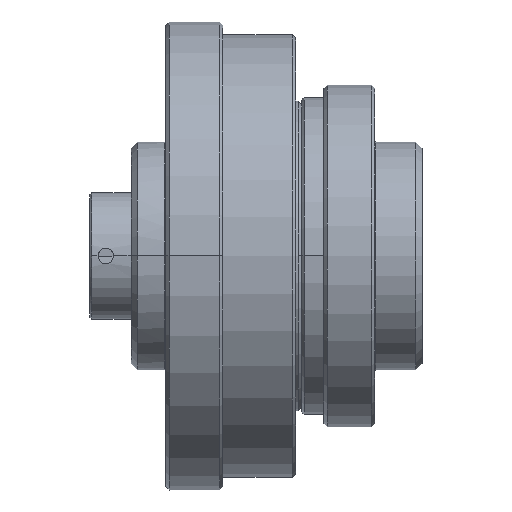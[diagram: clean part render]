
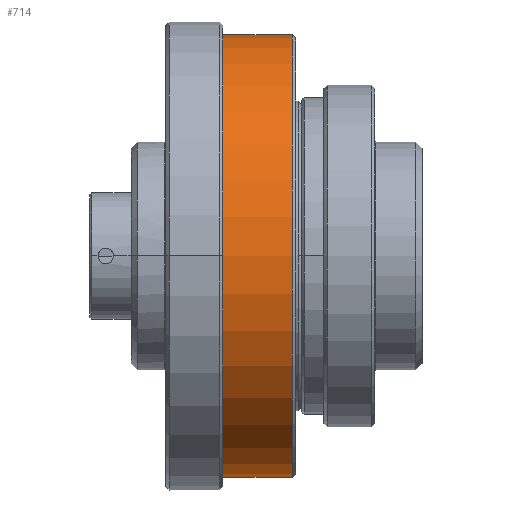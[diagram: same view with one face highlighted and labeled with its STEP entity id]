
A CAD part, top view. The second image highlights one B-rep face of the part: STEP entity #714.
In plain terms, the highlighted cylindrical face has radius 35 mm (diameter 70 mm), a partial arc.
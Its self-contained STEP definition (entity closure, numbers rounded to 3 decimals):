
#714=ADVANCED_FACE('NONE',(#1606),#1607,.T.);
#1606=FACE_OUTER_BOUND('',#2843,.T.);
#1607=CYLINDRICAL_SURFACE('',#2844,35.0);
#2843=EDGE_LOOP('',(#4900,#4901,#4902,#4903,#4904));
#2844=AXIS2_PLACEMENT_3D('',#4905,#4906,#4907);
#4900=ORIENTED_EDGE('',*,*,#6462,.F.);
#4901=ORIENTED_EDGE('',*,*,#6947,.T.);
#4902=ORIENTED_EDGE('',*,*,#6439,.T.);
#4903=ORIENTED_EDGE('',*,*,#6463,.T.);
#4904=ORIENTED_EDGE('',*,*,#6963,.F.);
#4905=CARTESIAN_POINT('',(13.45,0.,0.));
#4906=DIRECTION('',(-1.0,0.,0.));
#4907=DIRECTION('',(0.,-1.0,0.0));
#6439=EDGE_CURVE('NONE',#7652,#7653,#7654,.T.);
#6462=EDGE_CURVE('NONE',#7690,#7668,#7692,.T.);
#6463=EDGE_CURVE('NONE',#7653,#7666,#7693,.T.);
#6947=EDGE_CURVE('NONE',#7690,#7652,#8438,.T.);
#6963=EDGE_CURVE('NONE',#7668,#7666,#8466,.T.);
#7652=VERTEX_POINT('NONE',#9528);
#7653=VERTEX_POINT('NONE',#9529);
#7654=CIRCLE('',#9530,35.);
#7666=VERTEX_POINT('NONE',#9544);
#7668=VERTEX_POINT('NONE',#9547);
#7690=VERTEX_POINT('NONE',#9574);
#7692=LINE('',#9576,#9577);
#7693=LINE('',#9578,#9579);
#8438=CIRCLE('',#10755,35.);
#8466=CIRCLE('',#10795,35.);
#9528=CARTESIAN_POINT('',(8.5,0.,35.));
#9529=CARTESIAN_POINT('',(8.5,-35.,0.));
#9530=AXIS2_PLACEMENT_3D('',#11818,#11819,#11820);
#9544=CARTESIAN_POINT('',(20.,-35.,0.));
#9547=CARTESIAN_POINT('',(20.,35.,0.));
#9574=CARTESIAN_POINT('',(8.5,35.,0.));
#9576=CARTESIAN_POINT('',(13.45,35.0,0.));
#9577=VECTOR('',#11859,1000.0);
#9578=CARTESIAN_POINT('',(13.45,-35.0,0.));
#9579=VECTOR('',#11860,1000.0);
#10755=AXIS2_PLACEMENT_3D('',#12579,#12580,#12581);
#10795=AXIS2_PLACEMENT_3D('',#12594,#12595,#12596);
#11818=CARTESIAN_POINT('',(8.5,0.,0.));
#11819=DIRECTION('',(1.0,0.,0.));
#11820=DIRECTION('',(0.,0.924,-0.383));
#11859=DIRECTION('',(1.0,0.,0.));
#11860=DIRECTION('',(1.0,0.,0.));
#12579=CARTESIAN_POINT('',(8.5,0.,0.));
#12580=DIRECTION('',(1.0,0.,0.));
#12581=DIRECTION('',(0.,0.924,-0.383));
#12594=CARTESIAN_POINT('',(20.,0.,0.));
#12595=DIRECTION('',(1.0,0.,0.));
#12596=DIRECTION('',(0.,0.,-1.0));
